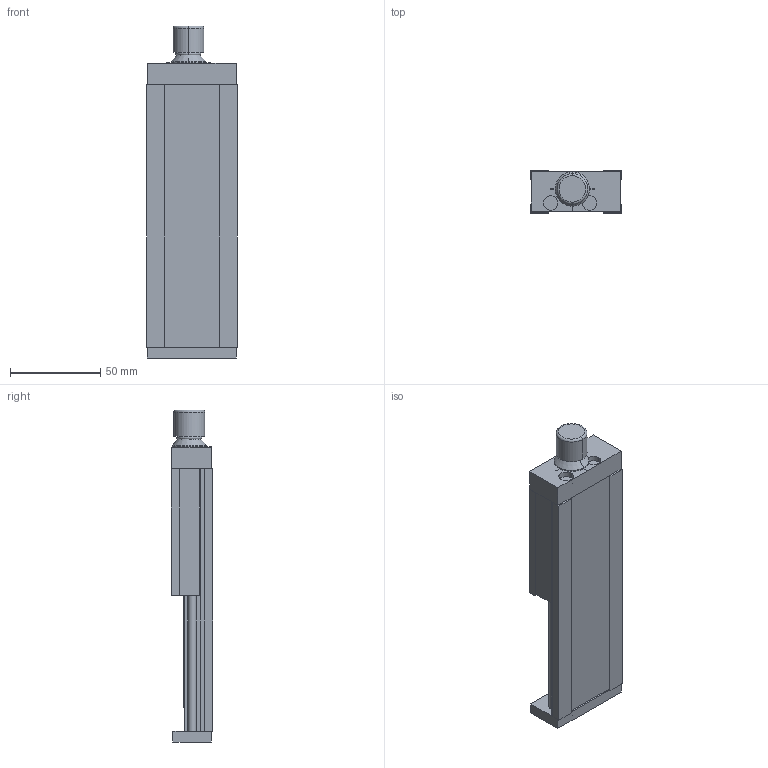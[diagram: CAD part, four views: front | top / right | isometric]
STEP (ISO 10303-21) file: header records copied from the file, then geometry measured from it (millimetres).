
FILE_DESCRIPTION (( 'STEP AP214' ), '1' );
FILE_NAME ('domiLINE 50 Hub 75.STEP', '2006-11-09T15:24:54', ( '' ), ( '' ), 'SwSTEP 2.0', 'SolidWorks 2006040', '' );
FILE_SCHEMA (( 'AUTOMOTIVE_DESIGN' ));
Length unit declared in the file: millimetre
Products named in the file (3): Aussenschlitten 50-+-D009143_ _Standard; domiLINE 50 Hub 75; dL 50 light-+-D018335_ _Hub 75
Assembly tree (2 placements, depth 2):
  domiLINE 50 Hub 75
    Aussenschlitten 50-+-D009143_ _Standard
    dL 50 light-+-D018335_ _Hub 75
Bounding box: 50 x 23 x 183.5 mm (x, y, z)
Volume: 120000 mm3; surface area: 50776.4 mm2
Topology: 2 solids, 2 shells, 143 faces, 368 edges, 240 vertices
Faces by surface type: plane 102, cylinder 35, torus 4, cone 2
Entity records: 5280 total; most frequent: CARTESIAN_POINT 756, DIRECTION 744, ORIENTED_EDGE 736, EDGE_CURVE 368, VECTOR 288, LINE 288, VERTEX_POINT 240, AXIS2_PLACEMENT_3D 228
